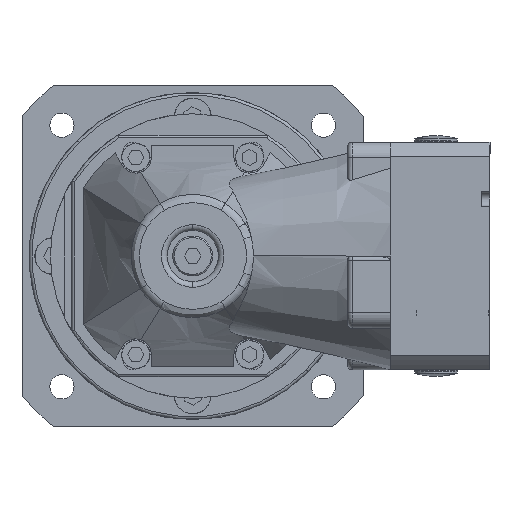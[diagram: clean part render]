
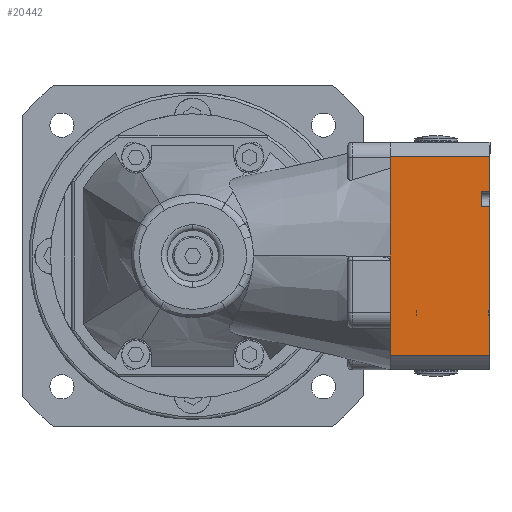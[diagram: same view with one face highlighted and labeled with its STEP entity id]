
A CAD part, left-side view. The second image highlights one B-rep face of the part: STEP entity #20442.
In plain terms, the highlighted planar face has unit normal (-1, 0, 0).
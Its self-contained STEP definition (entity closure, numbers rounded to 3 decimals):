
#291 = EDGE_CURVE ( 'NONE', #32198, #30691, #19638, .T. ) ;
#360 = VERTEX_POINT ( 'NONE', #45261 ) ;
#945 = LINE ( 'NONE', #21475, #35429 ) ;
#1626 = CARTESIAN_POINT ( 'NONE',  ( -197., -104.501, 34.847 ) ) ;
#2652 = CARTESIAN_POINT ( 'NONE',  ( -197., -104.5, -40. ) ) ;
#2955 = DIRECTION ( 'NONE',  ( 0., 0., 1. ) ) ;
#3977 = VECTOR ( 'NONE', #18342, 1000. ) ;
#7141 = VERTEX_POINT ( 'NONE', #26805 ) ;
#7486 = ORIENTED_EDGE ( 'NONE', *, *, #18212, .T. ) ;
#7581 = DIRECTION ( 'NONE',  ( 0., 0., -1. ) ) ;
#8213 = EDGE_LOOP ( 'NONE', ( #13592, #14017, #38999, #18317, #35378, #37176, #7486, #19201 ) ) ;
#10334 = CARTESIAN_POINT ( 'NONE',  ( -197., -101.5, 17.5 ) ) ;
#13332 = LINE ( 'NONE', #2652, #28682 ) ;
#13592 = ORIENTED_EDGE ( 'NONE', *, *, #26555, .F. ) ;
#14017 = ORIENTED_EDGE ( 'NONE', *, *, #44289, .T. ) ;
#15407 = DIRECTION ( 'NONE',  ( 0., -1., 0. ) ) ;
#15921 = CARTESIAN_POINT ( 'NONE',  ( -197., -101.5, 17.5 ) ) ;
#18212 = EDGE_CURVE ( 'NONE', #30691, #28418, #36241, .T. ) ;
#18317 = ORIENTED_EDGE ( 'NONE', *, *, #25788, .F. ) ;
#18342 = DIRECTION ( 'NONE',  ( 0., -1., 0. ) ) ;
#18626 = CARTESIAN_POINT ( 'NONE',  ( -197., -54.5, -40. ) ) ;
#18837 = CARTESIAN_POINT ( 'NONE',  ( -197., -69.5, 34.847 ) ) ;
#18886 = CARTESIAN_POINT ( 'NONE',  ( -197., -104.5, 17.5 ) ) ;
#19201 = ORIENTED_EDGE ( 'NONE', *, *, #23438, .T. ) ;
#19368 = VECTOR ( 'NONE', #42909, 1000. ) ;
#19638 = LINE ( 'NONE', #35495, #36095 ) ;
#20442 = ADVANCED_FACE ( 'NONE', ( #28384 ), #43020, .F. ) ;
#20928 = VERTEX_POINT ( 'NONE', #18886 ) ;
#21475 = CARTESIAN_POINT ( 'NONE',  ( -197., -101.5, 22.5 ) ) ;
#21692 = EDGE_CURVE ( 'NONE', #32198, #34283, #945, .T. ) ;
#22926 = LINE ( 'NONE', #1626, #39376 ) ;
#23381 = CARTESIAN_POINT ( 'NONE',  ( -197., -101.5, 22.5 ) ) ;
#23438 = EDGE_CURVE ( 'NONE', #28418, #31397, #22926, .T. ) ;
#25402 = DIRECTION ( 'NONE',  ( 0., -1., 0. ) ) ;
#25788 = EDGE_CURVE ( 'NONE', #34283, #20928, #37010, .T. ) ;
#26412 = VECTOR ( 'NONE', #44119, 1000. ) ;
#26555 = EDGE_CURVE ( 'NONE', #7141, #31397, #29302, .T. ) ;
#26805 = CARTESIAN_POINT ( 'NONE',  ( -197., -69.5, -34.847 ) ) ;
#28384 = FACE_OUTER_BOUND ( 'NONE', #8213, .T. ) ;
#28418 = VERTEX_POINT ( 'NONE', #40321 ) ;
#28620 = LINE ( 'NONE', #33060, #3977 ) ;
#28682 = VECTOR ( 'NONE', #2955, 1000. ) ;
#29125 = CARTESIAN_POINT ( 'NONE',  ( -197., -69.5, -40. ) ) ;
#29302 = LINE ( 'NONE', #29125, #19368 ) ;
#30691 = VERTEX_POINT ( 'NONE', #43562 ) ;
#31397 = VERTEX_POINT ( 'NONE', #18837 ) ;
#32198 = VERTEX_POINT ( 'NONE', #23381 ) ;
#33060 = CARTESIAN_POINT ( 'NONE',  ( -197., -104.501, -34.847 ) ) ;
#34283 = VERTEX_POINT ( 'NONE', #10334 ) ;
#34662 = EDGE_CURVE ( 'NONE', #360, #20928, #13332, .T. ) ;
#35378 = ORIENTED_EDGE ( 'NONE', *, *, #21692, .F. ) ;
#35429 = VECTOR ( 'NONE', #7581, 1000. ) ;
#35495 = CARTESIAN_POINT ( 'NONE',  ( -197., -101.5, 22.5 ) ) ;
#36095 = VECTOR ( 'NONE', #25402, 1000. ) ;
#36241 = LINE ( 'NONE', #40269, #26412 ) ;
#36798 = DIRECTION ( 'NONE',  ( 0., 1., 0. ) ) ;
#37010 = LINE ( 'NONE', #15921, #45219 ) ;
#37176 = ORIENTED_EDGE ( 'NONE', *, *, #291, .T. ) ;
#38999 = ORIENTED_EDGE ( 'NONE', *, *, #34662, .T. ) ;
#39376 = VECTOR ( 'NONE', #36798, 1000. ) ;
#40269 = CARTESIAN_POINT ( 'NONE',  ( -197., -104.5, -40. ) ) ;
#40321 = CARTESIAN_POINT ( 'NONE',  ( -197., -104.5, 34.847 ) ) ;
#42909 = DIRECTION ( 'NONE',  ( 0., 0., 1. ) ) ;
#43020 = PLANE ( 'NONE',  #44134 ) ;
#43169 = DIRECTION ( 'NONE',  ( 1., 0., 0. ) ) ;
#43562 = CARTESIAN_POINT ( 'NONE',  ( -197., -104.5, 22.5 ) ) ;
#44119 = DIRECTION ( 'NONE',  ( 0., 0., 1. ) ) ;
#44134 = AXIS2_PLACEMENT_3D ( 'NONE', #18626, #43169, #15407 ) ;
#44289 = EDGE_CURVE ( 'NONE', #7141, #360, #28620, .T. ) ;
#44552 = DIRECTION ( 'NONE',  ( 0., -1., 0. ) ) ;
#45219 = VECTOR ( 'NONE', #44552, 1000. ) ;
#45261 = CARTESIAN_POINT ( 'NONE',  ( -197., -104.5, -34.847 ) ) ;
